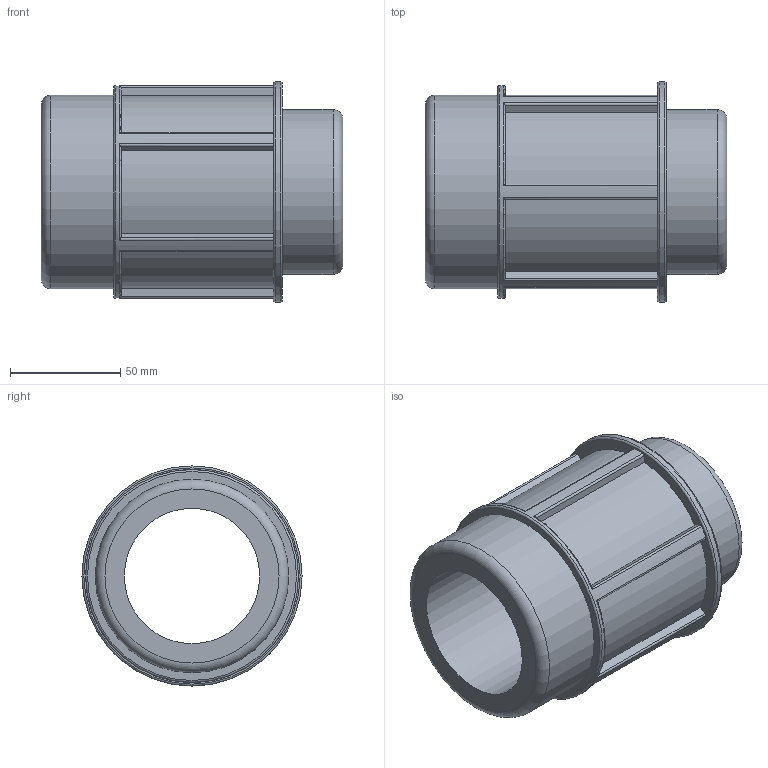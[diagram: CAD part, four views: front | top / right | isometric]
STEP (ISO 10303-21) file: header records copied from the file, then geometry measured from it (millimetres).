
FILE_DESCRIPTION(/* description */ ('PLASSON THREADED MALE ADAPTOR 75-3"'),/* implementation_level */ '2;1');
FILE_NAME(/* name */ 'C:\Dropbox\KIMPROJECTS-Inventor\99-16-3568-Processing\Silver+MF ISRAEL\078901\078901075030.ipt.stp',/* time_stamp */ '2018-04-09T13:02:11+03:00',/* author */ ('KIM'),/* organization */ (''),/* preprocessor_version */ 'ST-DEVELOPER v15.6',/* originating_system */ 'Autodesk Inventor 2015',/* authorisation */ '');
FILE_SCHEMA (('AUTOMOTIVE_DESIGN { 1 0 10303 214 3 1 1 }'));
Length unit declared in the file: millimetre
Products named in the file (1): 078901075030
Bounding box: 137 x 100 x 100 mm (x, y, z)
Volume: 400680.6 mm3; surface area: 77339.6 mm2
Topology: 1 solids, 1 shells, 57 faces, 151 edges, 99 vertices
Faces by surface type: cylinder 23, plane 23, torus 11
Full cylindrical faces by diameter (mm): 61.519 x1, 75 x1, 87.884 x1, 96.672 x1, 100 x1
Entity records: 1894 total; most frequent: CARTESIAN_POINT 488, DIRECTION 288, ORIENTED_EDGE 280, EDGE_CURVE 140, AXIS2_PLACEMENT_3D 114, VERTEX_POINT 98, EDGE_LOOP 72, LINE 60
